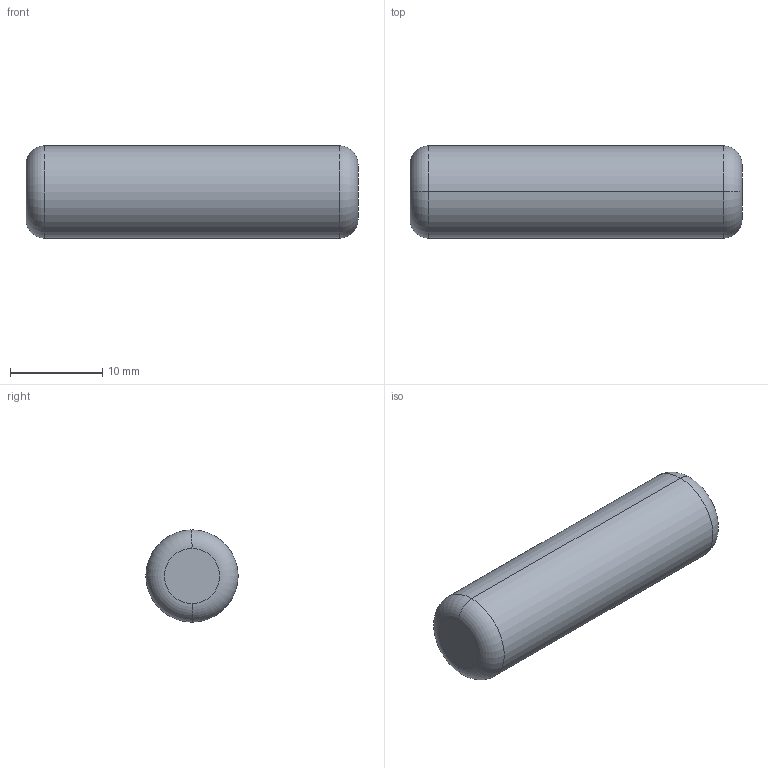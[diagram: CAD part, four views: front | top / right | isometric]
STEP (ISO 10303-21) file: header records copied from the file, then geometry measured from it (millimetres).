
FILE_DESCRIPTION (( 'STEP AP214' ), '1' );
FILE_NAME ('PAS-10x36.STEP', '2020-06-22T11:30:33', ( 'August' ), ( '' ), 'SwSTEP 2.0', 'SolidWorks 2018', '' );
FILE_SCHEMA (( 'AUTOMOTIVE_DESIGN' ));
Length unit declared in the file: millimetre
Products named in the file (1): PAS-10x36
Bounding box: 36 x 10 x 10 mm (x, y, z)
Volume: 2778.3 mm3; surface area: 1230.6 mm2
Topology: 1 solids, 1 shells, 8 faces, 14 edges, 8 vertices
Faces by surface type: torus 4, cylinder 2, plane 2
Entity records: 232 total; most frequent: DIRECTION 44, CARTESIAN_POINT 31, ORIENTED_EDGE 28, AXIS2_PLACEMENT_3D 21, EDGE_CURVE 14, CIRCLE 12, ADVANCED_FACE 8, FACE_OUTER_BOUND 8
